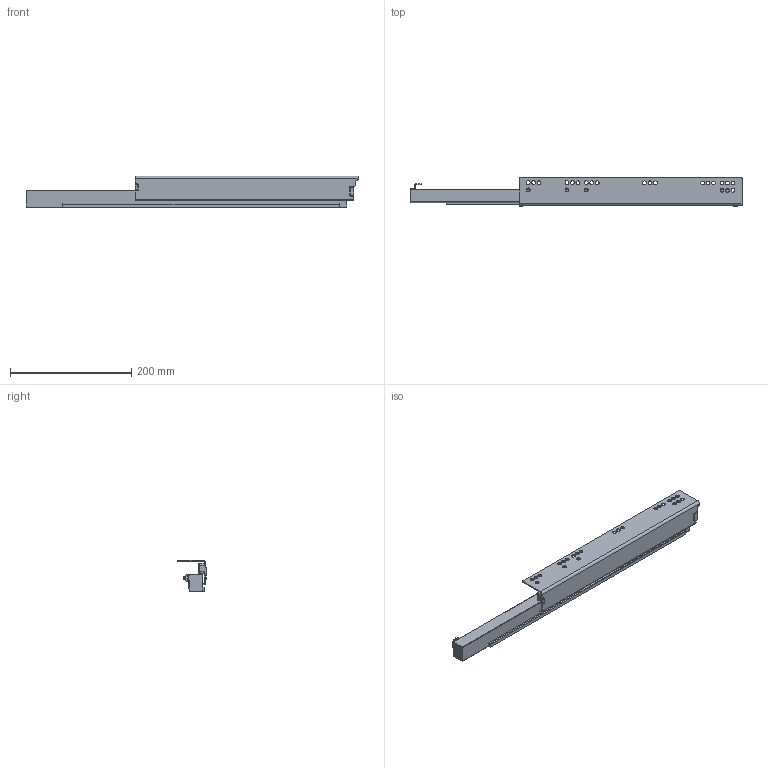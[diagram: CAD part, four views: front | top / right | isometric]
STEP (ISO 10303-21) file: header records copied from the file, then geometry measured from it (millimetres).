
FILE_DESCRIPTION (( 'STEP AP203' ), '1' );
FILE_NAME ('HT105504H-L(敕磁).STEP', '2021-07-31T01:27:47', ( 'Users' ), ( 'Microsoft' ), 'SwSTEP 2.0', 'SolidWorks 2018', '' );
FILE_SCHEMA (( 'CONFIG_CONTROL_DESIGN' ));
Length unit declared in the file: millimetre
Products named in the file (1): HT105504H-L(敕磁)
Bounding box: 548 x 47.5 x 51.73 mm (x, y, z)
Volume: 439950.1 mm3; surface area: 125403.6 mm2
Topology: 1 solids, 1 shells, 228 faces, 600 edges, 374 vertices
Faces by surface type: cylinder 102, plane 64, cone 48, torus 12, sphere 2
Entity records: 7215 total; most frequent: DIRECTION 1323, CARTESIAN_POINT 1216, ORIENTED_EDGE 1196, EDGE_CURVE 598, AXIS2_PLACEMENT_3D 501, VERTEX_POINT 374, LINE 321, VECTOR 321
